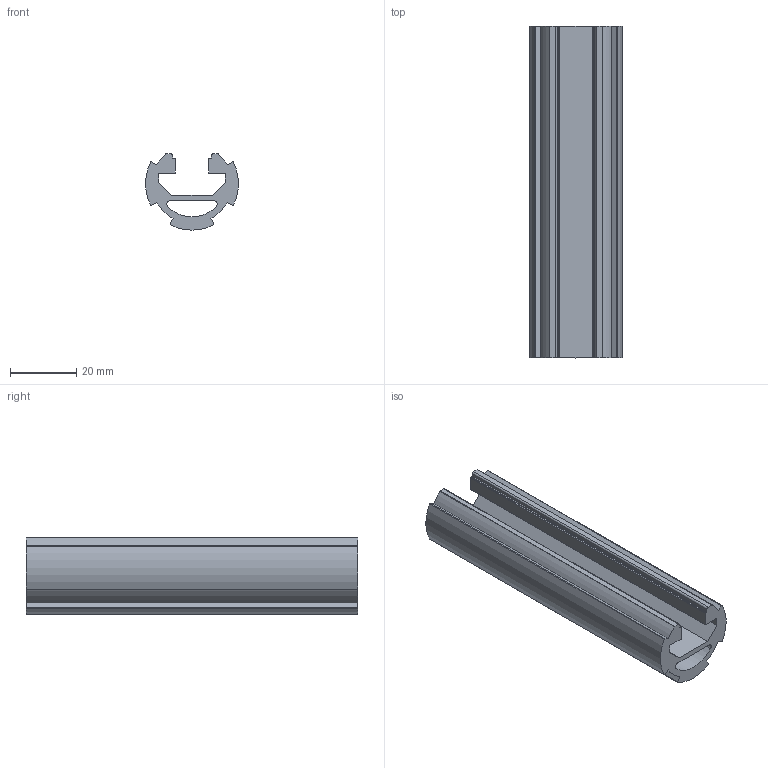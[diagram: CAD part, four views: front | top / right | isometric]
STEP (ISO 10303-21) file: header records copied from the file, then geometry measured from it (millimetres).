
FILE_DESCRIPTION( ( 'Unknown' ), '1' );
FILE_NAME( '//NAS_LAN/private_lan_Vol3/DB/Serie1/0052-B10-D28L-2014-09-15/B10-D28L.stp', 'Unknown', ( 'Unknown' ), ( 'Unknown' ), 'XStep 1.0', 'Unknown', ' ' );
FILE_SCHEMA( ( 'automotive_design' ) );
Length unit declared in the file: millimetre
Products named in the file (1): 1
Bounding box: 28 x 100 x 23 mm (x, y, z)
Volume: 26280.7 mm3; surface area: 17067.1 mm2
Topology: 1 solids, 1 shells, 50 faces, 144 edges, 96 vertices
Faces by surface type: cylinder 26, plane 24
Entity records: 2080 total; most frequent: DIRECTION 298, CARTESIAN_POINT 291, ORIENTED_EDGE 288, EDGE_CURVE 144, AXIS2_PLACEMENT_3D 103, VERTEX_POINT 96, LINE 92, VECTOR 92
